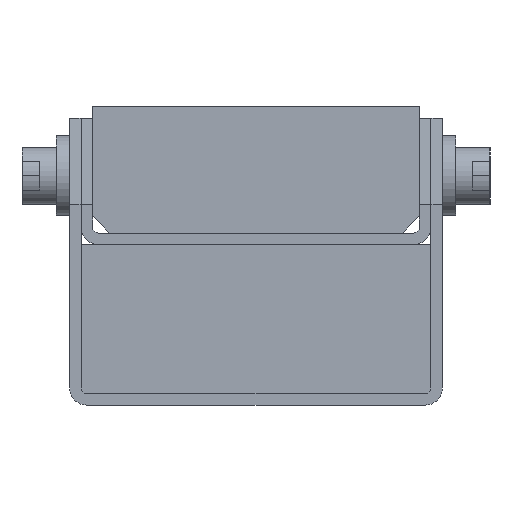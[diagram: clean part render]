
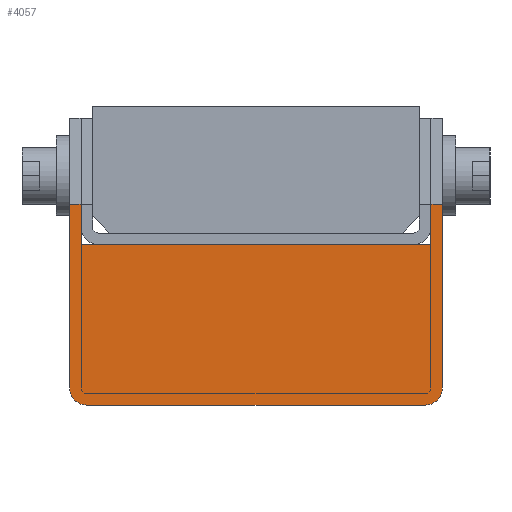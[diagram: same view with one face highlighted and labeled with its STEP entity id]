
A CAD part, front view. The second image highlights one B-rep face of the part: STEP entity #4057.
In plain terms, the highlighted planar face has unit normal (0, -1, 0).
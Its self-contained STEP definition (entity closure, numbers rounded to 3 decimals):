
#497=FACE_OUTER_BOUND('',#761,.T.);
#761=EDGE_LOOP('',(#3366,#3367,#3368,#3369,#3370,#3371,#3372,#3373,#3374,
#3375));
#1025=LINE('',#6660,#1345);
#1029=LINE('',#6669,#1349);
#1034=LINE('',#6678,#1354);
#1039=LINE('',#6687,#1359);
#1053=LINE('',#6718,#1373);
#1061=LINE('',#6741,#1381);
#1062=LINE('',#6743,#1382);
#1066=LINE('',#6754,#1386);
#1345=VECTOR('',#5343,10.);
#1349=VECTOR('',#5349,10.);
#1354=VECTOR('',#5356,10.);
#1359=VECTOR('',#5367,10.);
#1373=VECTOR('',#5391,10.);
#1381=VECTOR('',#5415,10.);
#1382=VECTOR('',#5418,10.);
#1386=VECTOR('',#5432,10.);
#1664=CIRCLE('',#4509,3.);
#1665=CIRCLE('',#4512,3.);
#1920=VERTEX_POINT('',#6656);
#1922=VERTEX_POINT('',#6659);
#1924=VERTEX_POINT('',#6665);
#1926=VERTEX_POINT('',#6668);
#1929=VERTEX_POINT('',#6676);
#1930=VERTEX_POINT('',#6686);
#1942=VERTEX_POINT('',#6716);
#1949=VERTEX_POINT('',#6739);
#1950=VERTEX_POINT('',#6749);
#1951=VERTEX_POINT('',#6753);
#2399=EDGE_CURVE('',#1922,#1920,#1025,.T.);
#2403=EDGE_CURVE('',#1926,#1924,#1029,.T.);
#2408=EDGE_CURVE('',#1929,#1924,#1034,.T.);
#2413=EDGE_CURVE('',#1930,#1922,#1039,.T.);
#2429=EDGE_CURVE('',#1920,#1942,#1053,.T.);
#2441=EDGE_CURVE('',#1942,#1949,#1061,.T.);
#2442=EDGE_CURVE('',#1926,#1949,#1062,.T.);
#2445=EDGE_CURVE('',#1950,#1929,#1664,.T.);
#2447=EDGE_CURVE('',#1950,#1951,#1066,.T.);
#2449=EDGE_CURVE('',#1930,#1951,#1665,.T.);
#3366=ORIENTED_EDGE('',*,*,#2403,.T.);
#3367=ORIENTED_EDGE('',*,*,#2408,.F.);
#3368=ORIENTED_EDGE('',*,*,#2445,.F.);
#3369=ORIENTED_EDGE('',*,*,#2447,.T.);
#3370=ORIENTED_EDGE('',*,*,#2449,.F.);
#3371=ORIENTED_EDGE('',*,*,#2413,.T.);
#3372=ORIENTED_EDGE('',*,*,#2399,.T.);
#3373=ORIENTED_EDGE('',*,*,#2429,.T.);
#3374=ORIENTED_EDGE('',*,*,#2441,.T.);
#3375=ORIENTED_EDGE('',*,*,#2442,.F.);
#3855=PLANE('',#4513);
#4057=ADVANCED_FACE('',(#497),#3855,.F.);
#4509=AXIS2_PLACEMENT_3D('',#6750,#5427,#5428);
#4512=AXIS2_PLACEMENT_3D('',#6757,#5436,#5437);
#4513=AXIS2_PLACEMENT_3D('',#6758,#5438,#5439);
#5343=DIRECTION('',(-1.,0.,0.));
#5349=DIRECTION('',(-1.,0.,0.));
#5356=DIRECTION('',(0.,0.,1.));
#5367=DIRECTION('',(0.,0.,1.));
#5391=DIRECTION('',(0.,0.,-1.));
#5415=DIRECTION('',(-1.,0.,0.));
#5418=DIRECTION('',(0.,0.,-1.));
#5427=DIRECTION('center_axis',(0.,1.,0.));
#5428=DIRECTION('ref_axis',(0.,0.,-1.));
#5432=DIRECTION('',(1.,0.,0.));
#5436=DIRECTION('center_axis',(0.,1.,0.));
#5437=DIRECTION('ref_axis',(1.,0.,0.));
#5438=DIRECTION('center_axis',(0.,1.,0.));
#5439=DIRECTION('ref_axis',(1.,0.,0.));
#6656=CARTESIAN_POINT('',(30.5,0.,35.));
#6659=CARTESIAN_POINT('',(32.5,0.,35.));
#6660=CARTESIAN_POINT('',(16.25,0.,35.));
#6665=CARTESIAN_POINT('',(-32.5,0.,35.));
#6668=CARTESIAN_POINT('',(-30.5,0.,35.));
#6669=CARTESIAN_POINT('',(16.25,0.,35.));
#6676=CARTESIAN_POINT('',(-32.5,0.,3.));
#6678=CARTESIAN_POINT('',(-32.5,0.,3.));
#6686=CARTESIAN_POINT('',(32.5,0.,3.));
#6687=CARTESIAN_POINT('',(32.5,0.,3.));
#6716=CARTESIAN_POINT('',(30.5,0.,28.));
#6718=CARTESIAN_POINT('',(30.5,0.,50.));
#6739=CARTESIAN_POINT('',(-30.5,0.,28.));
#6741=CARTESIAN_POINT('',(30.5,0.,28.));
#6743=CARTESIAN_POINT('',(-30.5,0.,50.));
#6749=CARTESIAN_POINT('',(-29.5,0.,0.));
#6750=CARTESIAN_POINT('Origin',(-29.5,0.,3.));
#6753=CARTESIAN_POINT('',(29.5,0.,0.));
#6754=CARTESIAN_POINT('',(0.,0.,0.));
#6757=CARTESIAN_POINT('Origin',(29.5,0.,3.));
#6758=CARTESIAN_POINT('Origin',(0.,0.,25.));
